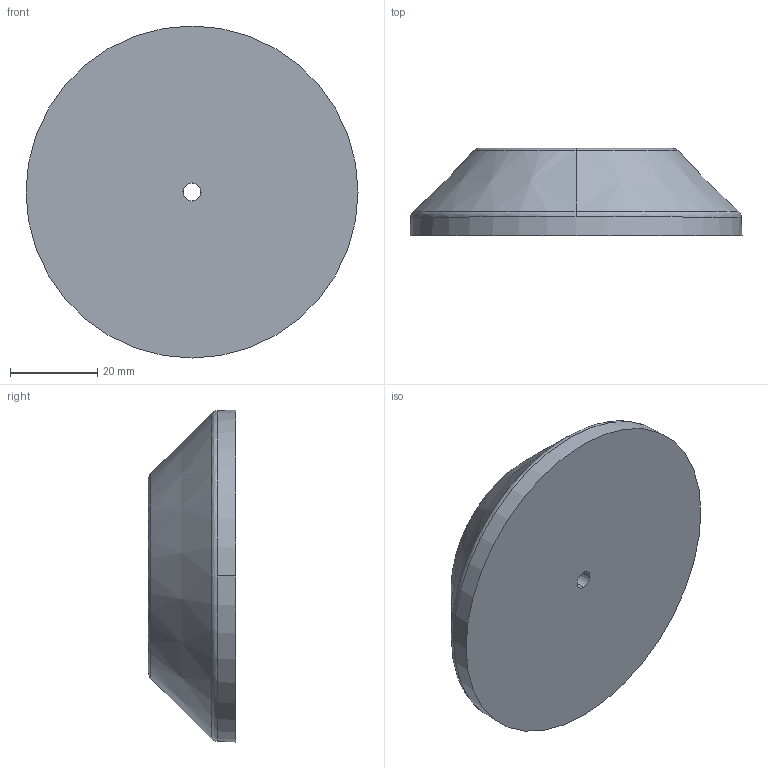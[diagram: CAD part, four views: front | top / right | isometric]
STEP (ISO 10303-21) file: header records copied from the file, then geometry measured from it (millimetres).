
FILE_DESCRIPTION (( 'STEP AP203' ), '1' );
FILE_NAME ('501285_Teller ZN Ø80 Trapezform inkl. Gummiteller.step', '2022-11-09T09:49:13', ( '' ), ( '' ), 'SwSTEP 2.0', 'SolidWorks 2021', '' );
FILE_SCHEMA (( 'CONFIG_CONTROL_DESIGN' ));
Length unit declared in the file: millimetre
Products named in the file (1): 501285_Teller ZN Ø80 Trapezform inkl. Gummiteller
Bounding box: 76 x 20 x 76 mm (x, y, z)
Volume: 65178.1 mm3; surface area: 11808.1 mm2
Topology: 1 solids, 1 shells, 15 faces, 32 edges, 20 vertices
Faces by surface type: cone 6, bspline 5, cylinder 2, plane 2
Entity records: 552 total; most frequent: CARTESIAN_POINT 149, DIRECTION 74, ORIENTED_EDGE 64, AXIS2_PLACEMENT_3D 33, EDGE_CURVE 32, CIRCLE 22, VERTEX_POINT 20, EDGE_LOOP 18
